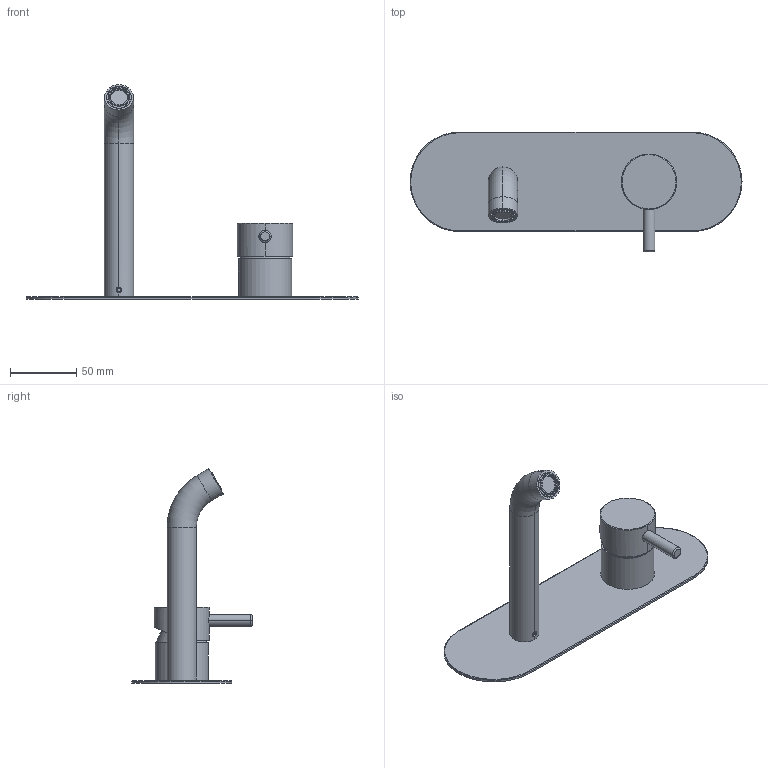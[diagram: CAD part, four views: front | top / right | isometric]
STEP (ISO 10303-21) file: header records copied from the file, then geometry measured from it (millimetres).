
FILE_DESCRIPTION((''),'2;1');
FILE_NAME('12532B_SW0001','2024-03-19T15:56:02',('carloff'),(''),'CREO PARAMETRIC BY PTC INC, 2022014','CREO PARAMETRIC BY PTC INC, 2022014','');
FILE_SCHEMA(('CONFIG_CONTROL_DESIGN'));
Products named in the file (1): 12532B_SW0001
Bounding box: 250 x 90.4 x 161.53 mm (x, y, z)
Volume: 110453 mm3; surface area: 101733 mm2
Topology: 5 solids, 5 shells, 808 faces, 2313 edges, 1517 vertices
Faces by surface type: plane 313, cylinder 307, cone 76, torus 68, bspline 38, sphere 6
Entity records: 50209 total; most frequent: CARTESIAN_POINT 29287, ORIENTED_EDGE 4618, DIRECTION 4148, EDGE_CURVE 2309, AXIS2_PLACEMENT_3D 1527, VERTEX_POINT 1517, VECTOR 1094, LINE 1094
